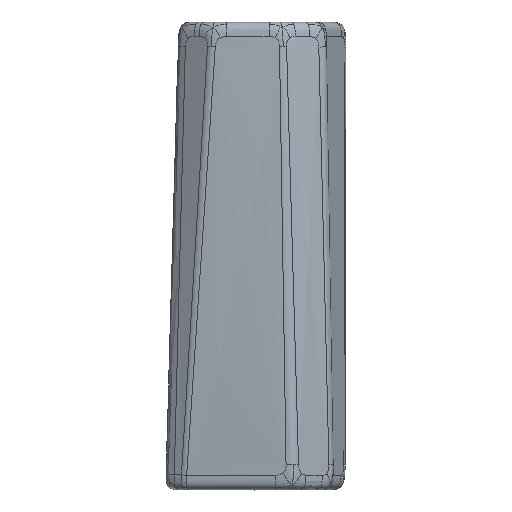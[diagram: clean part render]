
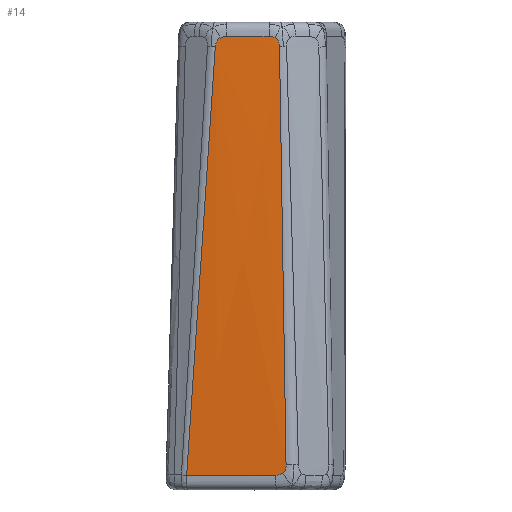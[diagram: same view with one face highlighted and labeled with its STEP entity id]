
A CAD part, front view. The second image highlights one B-rep face of the part: STEP entity #14.
In plain terms, the highlighted free-form (B-spline) face has degree [1, 1] with [2, 2] control points.
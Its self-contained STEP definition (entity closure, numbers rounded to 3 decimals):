
#14=ADVANCED_FACE('',(#141),#1867,.T.);
#141=FACE_OUTER_BOUND('',#268,.T.);
#268=EDGE_LOOP('',(#395,#396,#397,#398,#399,#400,#401,#402,#403,#404));
#395=ORIENTED_EDGE('',*,*,#1210,.T.);
#396=ORIENTED_EDGE('',*,*,#1212,.T.);
#397=ORIENTED_EDGE('',*,*,#1050,.F.);
#398=ORIENTED_EDGE('',*,*,#1033,.T.);
#399=ORIENTED_EDGE('',*,*,#1186,.T.);
#400=ORIENTED_EDGE('',*,*,#1188,.T.);
#401=ORIENTED_EDGE('',*,*,#1040,.F.);
#402=ORIENTED_EDGE('',*,*,#1198,.T.);
#403=ORIENTED_EDGE('',*,*,#1200,.T.);
#404=ORIENTED_EDGE('',*,*,#1046,.F.);
#1033=EDGE_CURVE('',#1673,#1677,#1352,.T.);
#1040=EDGE_CURVE('',#1675,#1676,#1359,.T.);
#1046=EDGE_CURVE('',#1671,#1672,#1365,.T.);
#1050=EDGE_CURVE('',#1673,#1674,#1369,.T.);
#1186=EDGE_CURVE('',#1677,#1777,#1505,.T.);
#1188=EDGE_CURVE('',#1777,#1676,#1507,.T.);
#1198=EDGE_CURVE('',#1675,#1784,#1517,.T.);
#1200=EDGE_CURVE('',#1784,#1672,#1519,.T.);
#1210=EDGE_CURVE('',#1671,#1791,#1529,.T.);
#1212=EDGE_CURVE('',#1791,#1674,#1531,.T.);
#1352=B_SPLINE_CURVE_WITH_KNOTS('',3,(#12001,#12002,#12003,#12004),
 .UNSPECIFIED.,.F.,.F.,(4,4),(6.303,159.808),
 .UNSPECIFIED.);
#1359=B_SPLINE_CURVE_WITH_KNOTS('',3,(#12038,#12039,#12040,#12041,#12042),
 .UNSPECIFIED.,.F.,.F.,(4,1,4),(41.72,400.244,756.648),
 .UNSPECIFIED.);
#1365=B_SPLINE_CURVE_WITH_KNOTS('',3,(#12071,#12072,#12073,#12074),
 .UNSPECIFIED.,.F.,.F.,(4,4),(23.515,96.754),
 .UNSPECIFIED.);
#1369=B_SPLINE_CURVE_WITH_KNOTS('',3,(#12093,#12094,#12095,#12096),
 .UNSPECIFIED.,.F.,.F.,(4,4),(25.38,759.134),
 .UNSPECIFIED.);
#1505=B_SPLINE_CURVE_WITH_KNOTS('',5,(#12821,#12822,#12823,#12824,#12825,
#12826,#12827,#12828,#12829,#12830),.UNSPECIFIED.,.F.,.F.,(6,1,1,1,1,6),
(-1.,-0.8,-0.6,-0.4,-0.2,0.),.UNSPECIFIED.);
#1507=B_SPLINE_CURVE_WITH_KNOTS('',5,(#12841,#12842,#12843,#12844,#12845,
#12846,#12847,#12848,#12849,#12850),.UNSPECIFIED.,.F.,.F.,(6,1,1,1,1,6),
(0.,0.2,0.4,0.6,0.8,1.),.UNSPECIFIED.);
#1517=B_SPLINE_CURVE_WITH_KNOTS('',5,(#12941,#12942,#12943,#12944,#12945,
#12946,#12947,#12948,#12949,#12950),.UNSPECIFIED.,.F.,.F.,(6,1,1,1,1,6),
(-1.,-0.8,-0.6,-0.4,-0.2,0.),.UNSPECIFIED.);
#1519=B_SPLINE_CURVE_WITH_KNOTS('',5,(#12961,#12962,#12963,#12964,#12965,
#12966,#12967,#12968,#12969,#12970),.UNSPECIFIED.,.F.,.F.,(6,1,1,1,1,6),
(0.,0.2,0.4,0.6,0.8,1.),.UNSPECIFIED.);
#1529=B_SPLINE_CURVE_WITH_KNOTS('',5,(#13061,#13062,#13063,#13064,#13065,
#13066,#13067,#13068,#13069,#13070),.UNSPECIFIED.,.F.,.F.,(6,1,1,1,1,6),
(-1.,-0.8,-0.6,-0.4,-0.2,0.),.UNSPECIFIED.);
#1531=B_SPLINE_CURVE_WITH_KNOTS('',5,(#13081,#13082,#13083,#13084,#13085,
#13086,#13087,#13088,#13089,#13090),.UNSPECIFIED.,.F.,.F.,(6,1,1,1,1,6),
(0.,0.2,0.4,0.6,0.8,1.),.UNSPECIFIED.);
#1671=VERTEX_POINT('',#11807);
#1672=VERTEX_POINT('',#11808);
#1673=VERTEX_POINT('',#11809);
#1674=VERTEX_POINT('',#11810);
#1675=VERTEX_POINT('',#11811);
#1676=VERTEX_POINT('',#11812);
#1677=VERTEX_POINT('',#11813);
#1777=VERTEX_POINT('',#11913);
#1784=VERTEX_POINT('',#11920);
#1791=VERTEX_POINT('',#11927);
#1867=B_SPLINE_SURFACE_WITH_KNOTS('',1,1,((#2090,#2091),(#2092,#2093)),
 .UNSPECIFIED.,.F.,.F.,.F.,(2,2),(2,2),(0.,231.269),(0.,800.),
 .UNSPECIFIED.);
#2090=CARTESIAN_POINT('',(1511.677,39.173,0.));
#2091=CARTESIAN_POINT('',(1562.383,33.876,800.));
#2092=CARTESIAN_POINT('',(1701.668,15.666,0.));
#2093=CARTESIAN_POINT('',(1682.104,35.246,800.));
#11807=CARTESIAN_POINT('',(1585.731,34.162,774.988));
#11808=CARTESIAN_POINT('',(1658.972,34.527,775.461));
#11809=CARTESIAN_POINT('',(1518.004,38.434,25.039));
#11810=CARTESIAN_POINT('',(1566.817,34.162,757.191));
#11811=CARTESIAN_POINT('',(1676.689,34.218,758.107));
#11812=CARTESIAN_POINT('',(1687.9,18.241,43.432));
#11813=CARTESIAN_POINT('',(1670.398,19.997,25.451));
#11913=CARTESIAN_POINT('',(1682.198,18.632,28.673));
#11920=CARTESIAN_POINT('',(1669.33,34.533,773.262));
#11927=CARTESIAN_POINT('',(1575.042,34.118,772.593));
#12001=CARTESIAN_POINT('',(1518.004,38.434,25.039));
#12002=CARTESIAN_POINT('',(1568.802,32.286,25.176));
#12003=CARTESIAN_POINT('',(1619.6,26.14,25.314));
#12004=CARTESIAN_POINT('',(1670.398,19.997,25.451));
#12038=CARTESIAN_POINT('',(1676.689,34.218,758.107));
#12039=CARTESIAN_POINT('',(1678.357,31.488,638.636));
#12040=CARTESIAN_POINT('',(1681.929,26.158,400.407));
#12041=CARTESIAN_POINT('',(1685.865,20.877,162.187));
#12042=CARTESIAN_POINT('',(1687.9,18.241,43.432));
#12071=CARTESIAN_POINT('',(1585.731,34.162,774.988));
#12072=CARTESIAN_POINT('',(1610.145,34.281,775.146));
#12073=CARTESIAN_POINT('',(1634.559,34.403,775.303));
#12074=CARTESIAN_POINT('',(1658.972,34.527,775.461));
#12093=CARTESIAN_POINT('',(1518.004,38.434,25.039));
#12094=CARTESIAN_POINT('',(1534.271,36.857,269.084));
#12095=CARTESIAN_POINT('',(1550.369,35.348,513.14));
#12096=CARTESIAN_POINT('',(1566.817,34.162,757.191));
#12821=CARTESIAN_POINT('',(1670.398,19.997,25.451));
#12822=CARTESIAN_POINT('',(1670.944,19.931,25.452));
#12823=CARTESIAN_POINT('',(1672.027,19.8,25.477));
#12824=CARTESIAN_POINT('',(1673.618,19.61,25.578));
#12825=CARTESIAN_POINT('',(1675.661,19.368,25.856));
#12826=CARTESIAN_POINT('',(1678.057,19.089,26.467));
#12827=CARTESIAN_POINT('',(1679.825,18.89,27.188));
#12828=CARTESIAN_POINT('',(1681.053,18.755,27.871));
#12829=CARTESIAN_POINT('',(1681.825,18.672,28.394));
#12830=CARTESIAN_POINT('',(1682.198,18.632,28.673));
#12841=CARTESIAN_POINT('',(1682.198,18.632,28.673));
#12842=CARTESIAN_POINT('',(1682.632,18.586,28.996));
#12843=CARTESIAN_POINT('',(1683.465,18.499,29.689));
#12844=CARTESIAN_POINT('',(1684.611,18.384,30.873));
#12845=CARTESIAN_POINT('',(1685.91,18.265,32.755));
#12846=CARTESIAN_POINT('',(1687.108,18.179,35.657));
#12847=CARTESIAN_POINT('',(1687.688,18.166,38.448));
#12848=CARTESIAN_POINT('',(1687.89,18.19,40.825));
#12849=CARTESIAN_POINT('',(1687.915,18.221,42.54));
#12850=CARTESIAN_POINT('',(1687.9,18.241,43.432));
#12941=CARTESIAN_POINT('',(1676.689,34.218,758.107));
#12942=CARTESIAN_POINT('',(1676.675,34.24,759.068));
#12943=CARTESIAN_POINT('',(1676.584,34.282,760.912));
#12944=CARTESIAN_POINT('',(1676.255,34.339,763.458));
#12945=CARTESIAN_POINT('',(1675.437,34.405,766.433));
#12946=CARTESIAN_POINT('',(1673.836,34.468,769.46));
#12947=CARTESIAN_POINT('',(1672.17,34.503,771.318));
#12948=CARTESIAN_POINT('',(1670.776,34.521,772.401));
#12949=CARTESIAN_POINT('',(1669.814,34.529,772.995));
#12950=CARTESIAN_POINT('',(1669.33,34.533,773.262));
#12961=CARTESIAN_POINT('',(1669.33,34.533,773.262));
#12962=CARTESIAN_POINT('',(1668.915,34.536,773.492));
#12963=CARTESIAN_POINT('',(1668.078,34.541,773.907));
#12964=CARTESIAN_POINT('',(1666.818,34.545,774.412));
#12965=CARTESIAN_POINT('',(1665.151,34.547,774.896));
#12966=CARTESIAN_POINT('',(1663.096,34.544,775.266));
#12967=CARTESIAN_POINT('',(1661.457,34.539,775.414));
#12968=CARTESIAN_POINT('',(1660.218,34.534,775.459));
#12969=CARTESIAN_POINT('',(1659.388,34.529,775.464));
#12970=CARTESIAN_POINT('',(1658.972,34.527,775.461));
#13061=CARTESIAN_POINT('',(1585.731,34.162,774.988));
#13062=CARTESIAN_POINT('',(1585.305,34.16,774.985));
#13063=CARTESIAN_POINT('',(1584.455,34.156,774.969));
#13064=CARTESIAN_POINT('',(1583.184,34.15,774.906));
#13065=CARTESIAN_POINT('',(1581.498,34.142,774.732));
#13066=CARTESIAN_POINT('',(1579.379,34.133,774.324));
#13067=CARTESIAN_POINT('',(1577.654,34.126,773.803));
#13068=CARTESIAN_POINT('',(1576.346,34.122,773.268));
#13069=CARTESIAN_POINT('',(1575.476,34.119,772.833));
#13070=CARTESIAN_POINT('',(1575.042,34.118,772.593));
#13081=CARTESIAN_POINT('',(1575.042,34.118,772.593));
#13082=CARTESIAN_POINT('',(1574.542,34.117,772.316));
#13083=CARTESIAN_POINT('',(1573.545,34.115,771.703));
#13084=CARTESIAN_POINT('',(1572.092,34.113,770.594));
#13085=CARTESIAN_POINT('',(1570.323,34.115,768.708));
#13086=CARTESIAN_POINT('',(1568.546,34.124,765.648));
#13087=CARTESIAN_POINT('',(1567.554,34.136,762.635));
#13088=CARTESIAN_POINT('',(1567.077,34.148,760.048));
#13089=CARTESIAN_POINT('',(1566.883,34.157,758.17));
#13090=CARTESIAN_POINT('',(1566.817,34.162,757.191));
